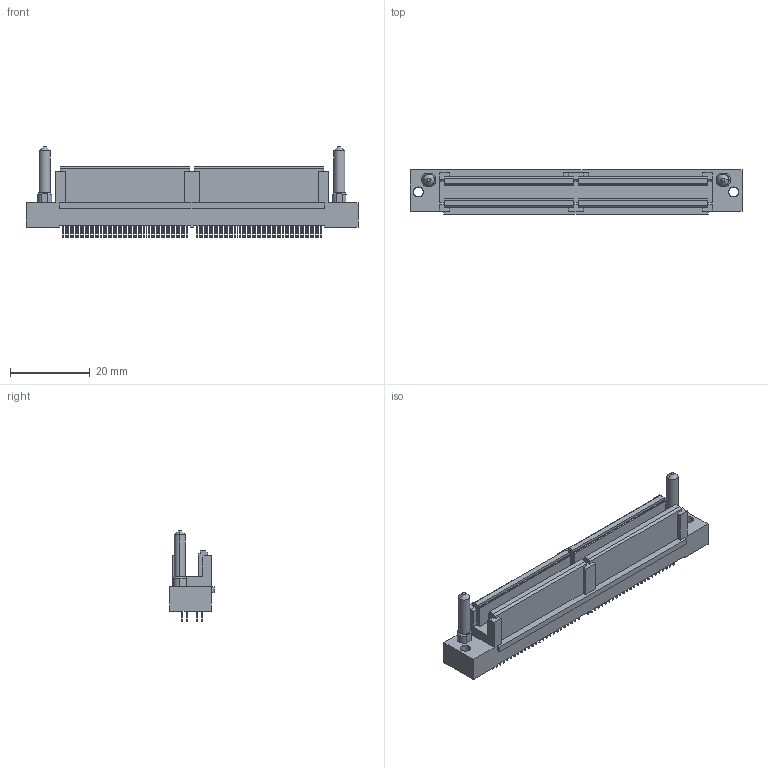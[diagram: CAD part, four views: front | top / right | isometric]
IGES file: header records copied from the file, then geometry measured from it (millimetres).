
Start section: SolidWorks IGES file using analytic representation for surfaces
Global section: file name: C:\3dwork\hoshino\30007\IGES.IGS; native system: SolidWorks 2014; preprocessor: SolidWorks 2014; author: 3dcad; date: 161024.115106; units: millimetre
Bounding box: 83.4 x 11.13 x 22.66 mm (x, y, z)
Surface area: 6118.6 mm2 (no closed solid volume)
Topology: 0 solids, 0 shells, 1126 faces, 5802 edges, 5802 vertices
Faces by surface type: bspline 1104, revolution 22
